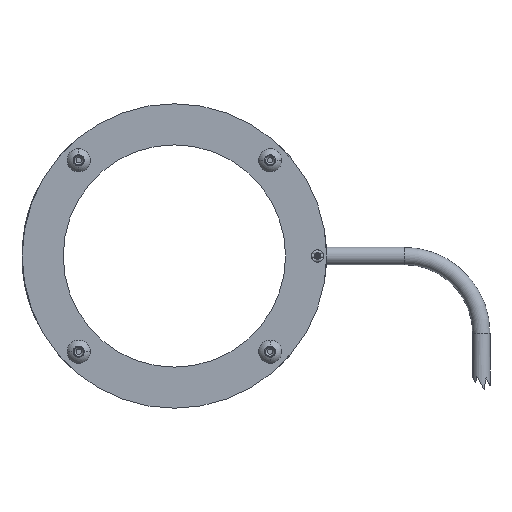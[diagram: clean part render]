
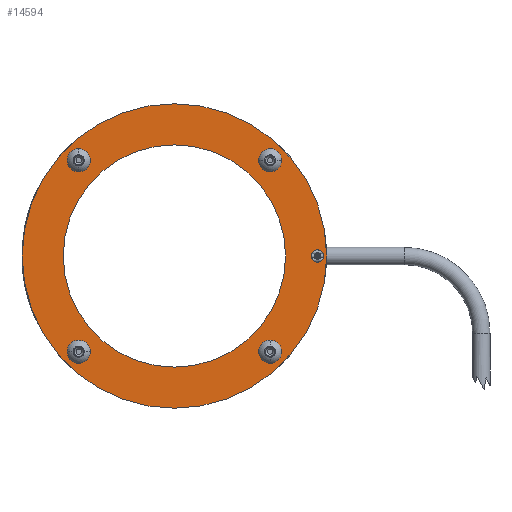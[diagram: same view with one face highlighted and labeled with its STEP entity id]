
A CAD part, front view. The second image highlights one B-rep face of the part: STEP entity #14594.
In plain terms, the highlighted planar face has unit normal (0, -1, 0).
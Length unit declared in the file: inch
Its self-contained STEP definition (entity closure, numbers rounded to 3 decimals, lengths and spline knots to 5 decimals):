
#389 = CIRCLE ( 'NONE', #2413, 0.06496 ) ;
#633 = CIRCLE ( 'NONE', #24860, 0.06496 ) ;
#641 = ORIENTED_EDGE ( 'NONE', *, *, #16638, .F. ) ;
#783 = CARTESIAN_POINT ( 'NONE',  ( 0., 0., -1.96875 ) ) ;
#787 = CARTESIAN_POINT ( 'NONE',  ( 1.23744, 0., 1.3024 ) ) ;
#793 = AXIS2_PLACEMENT_3D ( 'NONE', #8794, #15710, #22334 ) ;
#1046 = PLANE ( 'NONE',  #5642 ) ;
#1117 = VERTEX_POINT ( 'NONE', #28188 ) ;
#1390 = EDGE_CURVE ( 'NONE', #11608, #22075, #22622, .T. ) ;
#2038 = FACE_OUTER_BOUND ( 'NONE', #27043, .T. ) ;
#2157 = DIRECTION ( 'NONE',  ( 0., -1., 0. ) ) ;
#2220 = DIRECTION ( 'NONE',  ( 0., 0., -1. ) ) ;
#2413 = AXIS2_PLACEMENT_3D ( 'NONE', #4150, #28749, #11430 ) ;
#2576 = CARTESIAN_POINT ( 'NONE',  ( 1.23744, 0., -1.17248 ) ) ;
#2905 = CARTESIAN_POINT ( 'NONE',  ( -1.23744, 0., -1.23744 ) ) ;
#3011 = DIRECTION ( 'NONE',  ( 0., 0., -1. ) ) ;
#3448 = EDGE_LOOP ( 'NONE', ( #12233, #14535 ) ) ;
#3928 = ORIENTED_EDGE ( 'NONE', *, *, #22372, .F. ) ;
#4150 = CARTESIAN_POINT ( 'NONE',  ( 1.23744, 0., -1.23744 ) ) ;
#4620 = CIRCLE ( 'NONE', #16952, 0.06496 ) ;
#4697 = CIRCLE ( 'NONE', #24319, 0.06496 ) ;
#4780 = VERTEX_POINT ( 'NONE', #13281 ) ;
#5336 = CARTESIAN_POINT ( 'NONE',  ( 1.23744, 0., 1.23744 ) ) ;
#5508 = EDGE_LOOP ( 'NONE', ( #26398, #13461 ) ) ;
#5560 = DIRECTION ( 'NONE',  ( 0., -1., 0. ) ) ;
#5642 = AXIS2_PLACEMENT_3D ( 'NONE', #25614, #27605, #21213 ) ;
#5667 = CARTESIAN_POINT ( 'NONE',  ( -1.23744, 0., 1.3024 ) ) ;
#5805 = EDGE_CURVE ( 'NONE', #21084, #28500, #25188, .T. ) ;
#5810 = AXIS2_PLACEMENT_3D ( 'NONE', #2905, #25221, #13823 ) ;
#5908 = DIRECTION ( 'NONE',  ( 0., -1., 0. ) ) ;
#6018 = CARTESIAN_POINT ( 'NONE',  ( 0., 0., 1.4375 ) ) ;
#6444 = VERTEX_POINT ( 'NONE', #7908 ) ;
#6714 = EDGE_CURVE ( 'NONE', #9005, #6444, #15014, .T. ) ;
#6716 = CARTESIAN_POINT ( 'NONE',  ( -1.23744, 0., 1.23744 ) ) ;
#6938 = FACE_BOUND ( 'NONE', #12363, .T. ) ;
#6950 = AXIS2_PLACEMENT_3D ( 'NONE', #23598, #5560, #21325 ) ;
#7702 = DIRECTION ( 'NONE',  ( 0., 0., -1. ) ) ;
#7908 = CARTESIAN_POINT ( 'NONE',  ( 0., 0., 1.96875 ) ) ;
#7960 = DIRECTION ( 'NONE',  ( 0., 0., 1. ) ) ;
#8134 = EDGE_CURVE ( 'NONE', #28500, #21084, #27371, .T. ) ;
#8584 = AXIS2_PLACEMENT_3D ( 'NONE', #25708, #12353, #7960 ) ;
#8665 = FACE_BOUND ( 'NONE', #19515, .T. ) ;
#8794 = CARTESIAN_POINT ( 'NONE',  ( 0., 0., 0. ) ) ;
#8920 = DIRECTION ( 'NONE',  ( 0., 1., 0. ) ) ;
#9005 = VERTEX_POINT ( 'NONE', #783 ) ;
#9057 = CIRCLE ( 'NONE', #18885, 0.06496 ) ;
#9183 = CARTESIAN_POINT ( 'NONE',  ( 0., 0., 0. ) ) ;
#9628 = EDGE_CURVE ( 'NONE', #4780, #17784, #13988, .T. ) ;
#10254 = ORIENTED_EDGE ( 'NONE', *, *, #21399, .T. ) ;
#10318 = VERTEX_POINT ( 'NONE', #15903 ) ;
#10592 = ORIENTED_EDGE ( 'NONE', *, *, #19843, .F. ) ;
#10759 = FACE_BOUND ( 'NONE', #5508, .T. ) ;
#11271 = AXIS2_PLACEMENT_3D ( 'NONE', #28369, #19249, #17107 ) ;
#11430 = DIRECTION ( 'NONE',  ( 0., 0., -1. ) ) ;
#11608 = VERTEX_POINT ( 'NONE', #5667 ) ;
#11625 = CARTESIAN_POINT ( 'NONE',  ( -1.23744, 0., 1.17248 ) ) ;
#11687 = CARTESIAN_POINT ( 'NONE',  ( 1.85, 0., 0.0795 ) ) ;
#12233 = ORIENTED_EDGE ( 'NONE', *, *, #8134, .F. ) ;
#12353 = DIRECTION ( 'NONE',  ( 0., 1., 0. ) ) ;
#12363 = EDGE_LOOP ( 'NONE', ( #23945, #10254 ) ) ;
#12417 = CIRCLE ( 'NONE', #11271, 1.4375 ) ;
#12432 = ORIENTED_EDGE ( 'NONE', *, *, #6714, .F. ) ;
#12619 = DIRECTION ( 'NONE',  ( 0., 0., -1. ) ) ;
#12737 = DIRECTION ( 'NONE',  ( 0., 0., -1. ) ) ;
#13024 = CARTESIAN_POINT ( 'NONE',  ( 1.23744, 0., 1.17248 ) ) ;
#13281 = CARTESIAN_POINT ( 'NONE',  ( 1.23744, 0., -1.3024 ) ) ;
#13407 = AXIS2_PLACEMENT_3D ( 'NONE', #9183, #8920, #24514 ) ;
#13461 = ORIENTED_EDGE ( 'NONE', *, *, #23659, .F. ) ;
#13523 = DIRECTION ( 'NONE',  ( 0., -1., 0. ) ) ;
#13823 = DIRECTION ( 'NONE',  ( 0., 0., -1. ) ) ;
#13948 = EDGE_CURVE ( 'NONE', #23950, #1117, #4697, .T. ) ;
#13988 = CIRCLE ( 'NONE', #24670, 0.06496 ) ;
#14122 = DIRECTION ( 'NONE',  ( 0., 0., -1. ) ) ;
#14409 = EDGE_CURVE ( 'NONE', #16336, #17638, #633, .T. ) ;
#14429 = CARTESIAN_POINT ( 'NONE',  ( 1.23744, 0., -1.23744 ) ) ;
#14535 = ORIENTED_EDGE ( 'NONE', *, *, #5805, .F. ) ;
#14594 = ADVANCED_FACE ( 'NONE', ( #23696, #27897, #10759, #6938, #2038, #8665, #15302 ), #1046, .F. ) ;
#15014 = CIRCLE ( 'NONE', #13407, 1.96875 ) ;
#15302 = FACE_BOUND ( 'NONE', #21857, .T. ) ;
#15710 = DIRECTION ( 'NONE',  ( 0., 1., 0. ) ) ;
#15903 = CARTESIAN_POINT ( 'NONE',  ( 0., 0., -1.4375 ) ) ;
#15999 = AXIS2_PLACEMENT_3D ( 'NONE', #26101, #5908, #12737 ) ;
#16221 = AXIS2_PLACEMENT_3D ( 'NONE', #22992, #20817, #3011 ) ;
#16336 = VERTEX_POINT ( 'NONE', #787 ) ;
#16593 = ORIENTED_EDGE ( 'NONE', *, *, #14409, .F. ) ;
#16638 = EDGE_CURVE ( 'NONE', #6444, #9005, #23241, .T. ) ;
#16952 = AXIS2_PLACEMENT_3D ( 'NONE', #6716, #13523, #2220 ) ;
#17107 = DIRECTION ( 'NONE',  ( 0., 0., 1. ) ) ;
#17468 = CIRCLE ( 'NONE', #8584, 1.4375 ) ;
#17638 = VERTEX_POINT ( 'NONE', #13024 ) ;
#17784 = VERTEX_POINT ( 'NONE', #2576 ) ;
#18408 = DIRECTION ( 'NONE',  ( 0., -1., 0. ) ) ;
#18799 = DIRECTION ( 'NONE',  ( 0., 0., -1. ) ) ;
#18885 = AXIS2_PLACEMENT_3D ( 'NONE', #5336, #18408, #18799 ) ;
#19249 = DIRECTION ( 'NONE',  ( 0., 1., 0. ) ) ;
#19255 = CARTESIAN_POINT ( 'NONE',  ( -1.23744, 0., -1.23744 ) ) ;
#19515 = EDGE_LOOP ( 'NONE', ( #3928, #16593 ) ) ;
#19843 = EDGE_CURVE ( 'NONE', #22075, #11608, #4620, .T. ) ;
#20189 = ORIENTED_EDGE ( 'NONE', *, *, #20361, .F. ) ;
#20361 = EDGE_CURVE ( 'NONE', #17784, #4780, #389, .T. ) ;
#20817 = DIRECTION ( 'NONE',  ( 0., -1., 0. ) ) ;
#21084 = VERTEX_POINT ( 'NONE', #11687 ) ;
#21213 = DIRECTION ( 'NONE',  ( 0., 0., 1. ) ) ;
#21325 = DIRECTION ( 'NONE',  ( 0., 0., -1. ) ) ;
#21399 = EDGE_CURVE ( 'NONE', #22198, #10318, #17468, .T. ) ;
#21857 = EDGE_LOOP ( 'NONE', ( #10592, #25984 ) ) ;
#22075 = VERTEX_POINT ( 'NONE', #11625 ) ;
#22198 = VERTEX_POINT ( 'NONE', #6018 ) ;
#22334 = DIRECTION ( 'NONE',  ( 0., 0., 1. ) ) ;
#22372 = EDGE_CURVE ( 'NONE', #17638, #16336, #9057, .T. ) ;
#22622 = CIRCLE ( 'NONE', #6950, 0.06496 ) ;
#22992 = CARTESIAN_POINT ( 'NONE',  ( 1.85, 0., 0. ) ) ;
#23241 = CIRCLE ( 'NONE', #793, 1.96875 ) ;
#23511 = DIRECTION ( 'NONE',  ( 0., -1., 0. ) ) ;
#23598 = CARTESIAN_POINT ( 'NONE',  ( -1.23744, 0., 1.23744 ) ) ;
#23659 = EDGE_CURVE ( 'NONE', #1117, #23950, #26860, .T. ) ;
#23669 = CARTESIAN_POINT ( 'NONE',  ( -1.23744, 0., -1.3024 ) ) ;
#23679 = ORIENTED_EDGE ( 'NONE', *, *, #9628, .F. ) ;
#23696 = FACE_BOUND ( 'NONE', #3448, .T. ) ;
#23738 = EDGE_LOOP ( 'NONE', ( #23679, #20189 ) ) ;
#23945 = ORIENTED_EDGE ( 'NONE', *, *, #25915, .T. ) ;
#23950 = VERTEX_POINT ( 'NONE', #23669 ) ;
#24319 = AXIS2_PLACEMENT_3D ( 'NONE', #19255, #25988, #12619 ) ;
#24514 = DIRECTION ( 'NONE',  ( 0., 0., 1. ) ) ;
#24670 = AXIS2_PLACEMENT_3D ( 'NONE', #14429, #23511, #7702 ) ;
#24856 = CARTESIAN_POINT ( 'NONE',  ( 1.23744, 0., 1.23744 ) ) ;
#24860 = AXIS2_PLACEMENT_3D ( 'NONE', #24856, #2157, #14122 ) ;
#25188 = CIRCLE ( 'NONE', #15999, 0.0795 ) ;
#25221 = DIRECTION ( 'NONE',  ( 0., -1., 0. ) ) ;
#25411 = CARTESIAN_POINT ( 'NONE',  ( 1.85, 0., -0.0795 ) ) ;
#25614 = CARTESIAN_POINT ( 'NONE',  ( 0., 0., 0. ) ) ;
#25708 = CARTESIAN_POINT ( 'NONE',  ( 0., 0., 0. ) ) ;
#25915 = EDGE_CURVE ( 'NONE', #10318, #22198, #12417, .T. ) ;
#25984 = ORIENTED_EDGE ( 'NONE', *, *, #1390, .F. ) ;
#25988 = DIRECTION ( 'NONE',  ( 0., -1., 0. ) ) ;
#26101 = CARTESIAN_POINT ( 'NONE',  ( 1.85, 0., 0. ) ) ;
#26398 = ORIENTED_EDGE ( 'NONE', *, *, #13948, .F. ) ;
#26860 = CIRCLE ( 'NONE', #5810, 0.06496 ) ;
#27043 = EDGE_LOOP ( 'NONE', ( #12432, #641 ) ) ;
#27371 = CIRCLE ( 'NONE', #16221, 0.0795 ) ;
#27605 = DIRECTION ( 'NONE',  ( 0., 1., 0. ) ) ;
#27897 = FACE_BOUND ( 'NONE', #23738, .T. ) ;
#28188 = CARTESIAN_POINT ( 'NONE',  ( -1.23744, 0., -1.17248 ) ) ;
#28369 = CARTESIAN_POINT ( 'NONE',  ( 0., 0., 0. ) ) ;
#28500 = VERTEX_POINT ( 'NONE', #25411 ) ;
#28749 = DIRECTION ( 'NONE',  ( 0., -1., 0. ) ) ;
